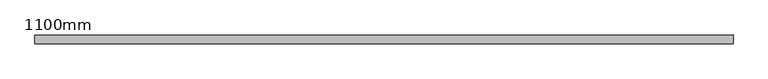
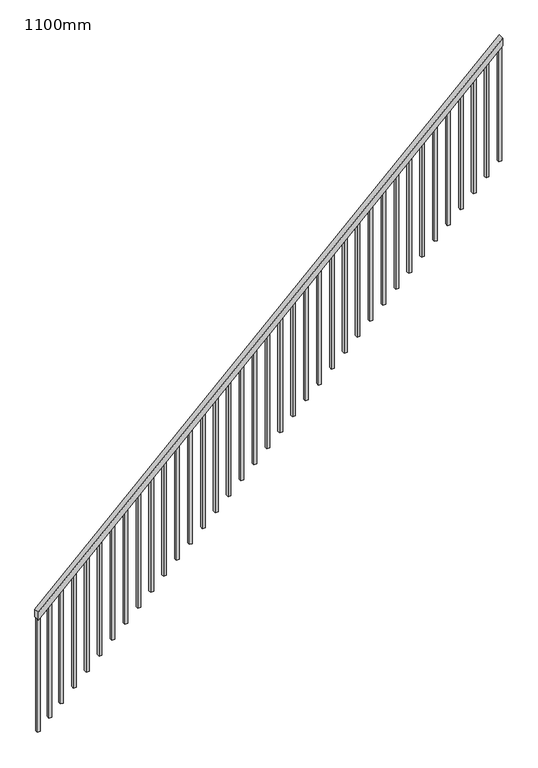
"""IFC4 building model written with IfcOpenShell, lengths in millimetres: railing geometry, 1100mm."""

from ifc_helpers import new_model, si_unit, frame, origin, place, context, project, spatial, polyline, outline, extrude, source, transform, mapped, element, save


def railing_1100mm_152d8a1c(model_context):
    return source(origin(), model_context, "Body", "SweptSolid", [
        extrude(outline(polyline([(1310.5263158, -267.586215), (1241.3213674, -267.586215), (5030.7950516, 3692.413785), (5100.0, 3692.413785), (1310.5263158, -267.586215)])), frame((0.0, 3810.9076201, 0.0), z_axis=(0.0, 1.0, 0.0), x_axis=(0.0, 0.0, 1.0)), (0.0, 0.0, 1.0), 50.0),
        extrude(outline(polyline([(3988.0382775, 3667.413785), (3988.0382775, 3692.413785), (5030.7950516, 3692.413785), (5006.8716067, 3667.413785), (3988.0382775, 3667.413785)])), frame((0.0, 3823.4076201, 0.0), z_axis=(0.0, 1.0, 0.0), x_axis=(0.0, 0.0, 1.0)), (0.0, 0.0, 1.0), 25.0),
        extrude(outline(polyline([(3882.7751196, 3557.413785), (3882.7751196, 3582.413785), (4925.5318937, 3582.413785), (4901.6084488, 3557.413785), (3882.7751196, 3557.413785)])), frame((0.0, 3823.4076201, 0.0), z_axis=(0.0, 1.0, 0.0), x_axis=(0.0, 0.0, 1.0)), (0.0, 0.0, 1.0), 25.0),
        extrude(outline(polyline([(3777.5119617, 3447.413785), (3777.5119617, 3472.413785), (4820.2687358, 3472.413785), (4796.3452909, 3447.413785), (3777.5119617, 3447.413785)])), frame((0.0, 3823.4076201, 0.0), z_axis=(0.0, 1.0, 0.0), x_axis=(0.0, 0.0, 1.0)), (0.0, 0.0, 1.0), 25.0),
        extrude(outline(polyline([(3672.2488038, 3337.413785), (3672.2488038, 3362.413785), (4715.005578, 3362.413785), (4691.082133, 3337.413785), (3672.2488038, 3337.413785)])), frame((0.0, 3823.4076201, 0.0), z_axis=(0.0, 1.0, 0.0), x_axis=(0.0, 0.0, 1.0)), (0.0, 0.0, 1.0), 25.0),
        extrude(outline(polyline([(3566.9856459, 3227.413785), (3566.9856459, 3252.413785), (4609.7424201, 3252.413785), (4585.8189751, 3227.413785), (3566.9856459, 3227.413785)])), frame((0.0, 3823.4076201, 0.0), z_axis=(0.0, 1.0, 0.0), x_axis=(0.0, 0.0, 1.0)), (0.0, 0.0, 1.0), 25.0),
        extrude(outline(polyline([(3461.722488, 3117.413785), (3461.722488, 3142.413785), (4504.4792622, 3142.413785), (4480.5558172, 3117.413785), (3461.722488, 3117.413785)])), frame((0.0, 3823.4076201, 0.0), z_axis=(0.0, 1.0, 0.0), x_axis=(0.0, 0.0, 1.0)), (0.0, 0.0, 1.0), 25.0),
        extrude(outline(polyline([(3356.4593301, 3007.413785), (3356.4593301, 3032.413785), (4399.2161043, 3032.413785), (4375.2926593, 3007.413785), (3356.4593301, 3007.413785)])), frame((0.0, 3823.4076201, 0.0), z_axis=(0.0, 1.0, 0.0), x_axis=(0.0, 0.0, 1.0)), (0.0, 0.0, 1.0), 25.0),
        extrude(outline(polyline([(3251.1961722, 2897.413785), (3251.1961722, 2922.413785), (4293.9529464, 2922.413785), (4270.0295014, 2897.413785), (3251.1961722, 2897.413785)])), frame((0.0, 3823.4076201, 0.0), z_axis=(0.0, 1.0, 0.0), x_axis=(0.0, 0.0, 1.0)), (0.0, 0.0, 1.0), 25.0),
        extrude(outline(polyline([(3145.9330144, 2787.413785), (3145.9330144, 2812.413785), (4188.6897885, 2812.413785), (4164.7663435, 2787.413785), (3145.9330144, 2787.413785)])), frame((0.0, 3823.4076201, 0.0), z_axis=(0.0, 1.0, 0.0), x_axis=(0.0, 0.0, 1.0)), (0.0, 0.0, 1.0), 25.0),
        extrude(outline(polyline([(3040.6698565, 2677.413785), (3040.6698565, 2702.413785), (4083.4266306, 2702.413785), (4059.5031856, 2677.413785), (3040.6698565, 2677.413785)])), frame((0.0, 3823.4076201, 0.0), z_axis=(0.0, 1.0, 0.0), x_axis=(0.0, 0.0, 1.0)), (0.0, 0.0, 1.0), 25.0),
        extrude(outline(polyline([(2935.4066986, 2567.413785), (2935.4066986, 2592.413785), (3978.1634727, 2592.413785), (3954.2400277, 2567.413785), (2935.4066986, 2567.413785)])), frame((0.0, 3823.4076201, 0.0), z_axis=(0.0, 1.0, 0.0), x_axis=(0.0, 0.0, 1.0)), (0.0, 0.0, 1.0), 25.0),
        extrude(outline(polyline([(2830.1435407, 2457.413785), (2830.1435407, 2482.413785), (3872.9003148, 2482.413785), (3848.9768698, 2457.413785), (2830.1435407, 2457.413785)])), frame((0.0, 3823.4076201, 0.0), z_axis=(0.0, 1.0, 0.0), x_axis=(0.0, 0.0, 1.0)), (0.0, 0.0, 1.0), 25.0),
        extrude(outline(polyline([(2724.8803828, 2347.413785), (2724.8803828, 2372.413785), (3767.6371569, 2372.413785), (3743.7137119, 2347.413785), (2724.8803828, 2347.413785)])), frame((0.0, 3823.4076201, 0.0), z_axis=(0.0, 1.0, 0.0), x_axis=(0.0, 0.0, 1.0)), (0.0, 0.0, 1.0), 25.0),
        extrude(outline(polyline([(2619.6172249, 2237.413785), (2619.6172249, 2262.413785), (3662.373999, 2262.413785), (3638.450554, 2237.413785), (2619.6172249, 2237.413785)])), frame((0.0, 3823.4076201, 0.0), z_axis=(0.0, 1.0, 0.0), x_axis=(0.0, 0.0, 1.0)), (0.0, 0.0, 1.0), 25.0),
        extrude(outline(polyline([(2514.354067, 2127.413785), (2514.354067, 2152.413785), (3557.1108411, 2152.413785), (3533.1873961, 2127.413785), (2514.354067, 2127.413785)])), frame((0.0, 3823.4076201, 0.0), z_axis=(0.0, 1.0, 0.0), x_axis=(0.0, 0.0, 1.0)), (0.0, 0.0, 1.0), 25.0),
        extrude(outline(polyline([(2409.0909091, 2017.413785), (2409.0909091, 2042.413785), (3451.8476832, 2042.413785), (3427.9242382, 2017.413785), (2409.0909091, 2017.413785)])), frame((0.0, 3823.4076201, 0.0), z_axis=(0.0, 1.0, 0.0), x_axis=(0.0, 0.0, 1.0)), (0.0, 0.0, 1.0), 25.0),
        extrude(outline(polyline([(2303.8277512, 1907.413785), (2303.8277512, 1932.413785), (3346.5845253, 1932.413785), (3322.6610803, 1907.413785), (2303.8277512, 1907.413785)])), frame((0.0, 3823.4076201, 0.0), z_axis=(0.0, 1.0, 0.0), x_axis=(0.0, 0.0, 1.0)), (0.0, 0.0, 1.0), 25.0),
        extrude(outline(polyline([(2198.5645933, 1797.413785), (2198.5645933, 1822.413785), (3241.3213674, 1822.413785), (3217.3979224, 1797.413785), (2198.5645933, 1797.413785)])), frame((0.0, 3823.4076201, 0.0), z_axis=(0.0, 1.0, 0.0), x_axis=(0.0, 0.0, 1.0)), (0.0, 0.0, 1.0), 25.0),
        extrude(outline(polyline([(2093.3014354, 1687.413785), (2093.3014354, 1712.413785), (3136.0582095, 1712.413785), (3112.1347646, 1687.413785), (2093.3014354, 1687.413785)])), frame((0.0, 3823.4076201, 0.0), z_axis=(0.0, 1.0, 0.0), x_axis=(0.0, 0.0, 1.0)), (0.0, 0.0, 1.0), 25.0),
        extrude(outline(polyline([(1988.0382775, 1577.413785), (1988.0382775, 1602.413785), (3030.7950516, 1602.413785), (3006.8716067, 1577.413785), (1988.0382775, 1577.413785)])), frame((0.0, 3823.4076201, 0.0), z_axis=(0.0, 1.0, 0.0), x_axis=(0.0, 0.0, 1.0)), (0.0, 0.0, 1.0), 25.0),
        extrude(outline(polyline([(1882.7751196, 1467.413785), (1882.7751196, 1492.413785), (2925.5318937, 1492.413785), (2901.6084488, 1467.413785), (1882.7751196, 1467.413785)])), frame((0.0, 3823.4076201, 0.0), z_axis=(0.0, 1.0, 0.0), x_axis=(0.0, 0.0, 1.0)), (0.0, 0.0, 1.0), 25.0),
        extrude(outline(polyline([(1777.5119617, 1357.413785), (1777.5119617, 1382.413785), (2820.2687358, 1382.413785), (2796.3452909, 1357.413785), (1777.5119617, 1357.413785)])), frame((0.0, 3823.4076201, 0.0), z_axis=(0.0, 1.0, 0.0), x_axis=(0.0, 0.0, 1.0)), (0.0, 0.0, 1.0), 25.0),
        extrude(outline(polyline([(1672.2488038, 1247.413785), (1672.2488038, 1272.413785), (2715.005578, 1272.413785), (2691.082133, 1247.413785), (1672.2488038, 1247.413785)])), frame((0.0, 3823.4076201, 0.0), z_axis=(0.0, 1.0, 0.0), x_axis=(0.0, 0.0, 1.0)), (0.0, 0.0, 1.0), 25.0),
        extrude(outline(polyline([(1566.9856459, 1137.413785), (1566.9856459, 1162.413785), (2609.7424201, 1162.413785), (2585.8189751, 1137.413785), (1566.9856459, 1137.413785)])), frame((0.0, 3823.4076201, 0.0), z_axis=(0.0, 1.0, 0.0), x_axis=(0.0, 0.0, 1.0)), (0.0, 0.0, 1.0), 25.0),
        extrude(outline(polyline([(1461.722488, 1027.413785), (1461.722488, 1052.413785), (2504.4792622, 1052.413785), (2480.5558172, 1027.413785), (1461.722488, 1027.413785)])), frame((0.0, 3823.4076201, 0.0), z_axis=(0.0, 1.0, 0.0), x_axis=(0.0, 0.0, 1.0)), (0.0, 0.0, 1.0), 25.0),
        extrude(outline(polyline([(1356.4593301, 917.413785), (1356.4593301, 942.413785), (2399.2161043, 942.413785), (2375.2926593, 917.413785), (1356.4593301, 917.413785)])), frame((0.0, 3823.4076201, 0.0), z_axis=(0.0, 1.0, 0.0), x_axis=(0.0, 0.0, 1.0)), (0.0, 0.0, 1.0), 25.0),
        extrude(outline(polyline([(1251.1961722, 807.413785), (1251.1961722, 832.413785), (2293.9529464, 832.413785), (2270.0295014, 807.413785), (1251.1961722, 807.413785)])), frame((0.0, 3823.4076201, 0.0), z_axis=(0.0, 1.0, 0.0), x_axis=(0.0, 0.0, 1.0)), (0.0, 0.0, 1.0), 25.0),
        extrude(outline(polyline([(1145.9330144, 697.413785), (1145.9330144, 722.413785), (2188.6897885, 722.413785), (2164.7663435, 697.413785), (1145.9330144, 697.413785)])), frame((0.0, 3823.4076201, 0.0), z_axis=(0.0, 1.0, 0.0), x_axis=(0.0, 0.0, 1.0)), (0.0, 0.0, 1.0), 25.0),
        extrude(outline(polyline([(1040.6698565, 587.413785), (1040.6698565, 612.413785), (2083.4266306, 612.413785), (2059.5031856, 587.413785), (1040.6698565, 587.413785)])), frame((0.0, 3823.4076201, 0.0), z_axis=(0.0, 1.0, 0.0), x_axis=(0.0, 0.0, 1.0)), (0.0, 0.0, 1.0), 25.0),
        extrude(outline(polyline([(935.4066986, 477.413785), (935.4066986, 502.413785), (1978.1634727, 502.413785), (1954.2400277, 477.413785), (935.4066986, 477.413785)])), frame((0.0, 3823.4076201, 0.0), z_axis=(0.0, 1.0, 0.0), x_axis=(0.0, 0.0, 1.0)), (0.0, 0.0, 1.0), 25.0),
        extrude(outline(polyline([(830.1435407, 367.413785), (830.1435407, 392.413785), (1872.9003148, 392.413785), (1848.9768698, 367.413785), (830.1435407, 367.413785)])), frame((0.0, 3823.4076201, 0.0), z_axis=(0.0, 1.0, 0.0), x_axis=(0.0, 0.0, 1.0)), (0.0, 0.0, 1.0), 25.0),
        extrude(outline(polyline([(724.8803828, 257.413785), (724.8803828, 282.413785), (1767.6371569, 282.413785), (1743.7137119, 257.413785), (724.8803828, 257.413785)])), frame((0.0, 3823.4076201, 0.0), z_axis=(0.0, 1.0, 0.0), x_axis=(0.0, 0.0, 1.0)), (0.0, 0.0, 1.0), 25.0),
        extrude(outline(polyline([(619.6172249, 147.413785), (619.6172249, 172.413785), (1662.373999, 172.413785), (1638.450554, 147.413785), (619.6172249, 147.413785)])), frame((0.0, 3823.4076201, 0.0), z_axis=(0.0, 1.0, 0.0), x_axis=(0.0, 0.0, 1.0)), (0.0, 0.0, 1.0), 25.0),
        extrude(outline(polyline([(514.354067, 37.413785), (514.354067, 62.413785), (1557.1108411, 62.413785), (1533.1873961, 37.413785), (514.354067, 37.413785)])), frame((0.0, 3823.4076201, 0.0), z_axis=(0.0, 1.0, 0.0), x_axis=(0.0, 0.0, 1.0)), (0.0, 0.0, 1.0), 25.0),
        extrude(outline(polyline([(409.0909091, -72.586215), (409.0909091, -47.586215), (1451.8476832, -47.586215), (1427.9242382, -72.586215), (409.0909091, -72.586215)])), frame((0.0, 3823.4076201, 0.0), z_axis=(0.0, 1.0, 0.0), x_axis=(0.0, 0.0, 1.0)), (0.0, 0.0, 1.0), 25.0),
        extrude(outline(polyline([(315.7894737, -170.086215), (315.7894737, -145.086215), (1358.5462478, -145.086215), (1334.6228028, -170.086215), (315.7894737, -170.086215)])), frame((0.0, 3823.4076201, 0.0), z_axis=(0.0, 1.0, 0.0), x_axis=(0.0, 0.0, 1.0)), (0.0, 0.0, 1.0), 25.0),
        extrude(outline(polyline([(222.4880383, -267.586215), (222.4880383, -242.586215), (1265.2448124, -242.586215), (1241.3213674, -267.586215), (222.4880383, -267.586215)])), frame((0.0, 3823.4076201, 0.0), z_axis=(0.0, 1.0, 0.0), x_axis=(0.0, 0.0, 1.0)), (0.0, 0.0, 1.0), 25.0),
    ])


if __name__ == "__main__":
    model = new_model("IFC4")
    model_context = context("Model", 3, world=origin())
    ifc_project = project(units=[si_unit("LENGTHUNIT", "METRE", prefix="MILLI")], contexts=[model_context])
    site = spatial("IfcSite", under=ifc_project)
    building = spatial("IfcBuilding", under=site)
    placement = place(None, origin())
    railing_1100mm_shape = railing_1100mm_152d8a1c(model_context)
    element("IfcRailing", 1, ObjectType="1100mm", at=placement, inside=building, context=model_context, shape_type="MappedRepresentation", body=[
        mapped(railing_1100mm_shape, transform((0.0, 0.0, 0.0), x_axis=(1.0, 0.0, 0.0), y_axis=(0.0, 1.0, 0.0), z_axis=(0.0, 0.0, 1.0))),
    ])
    save(model, "model.ifc")
